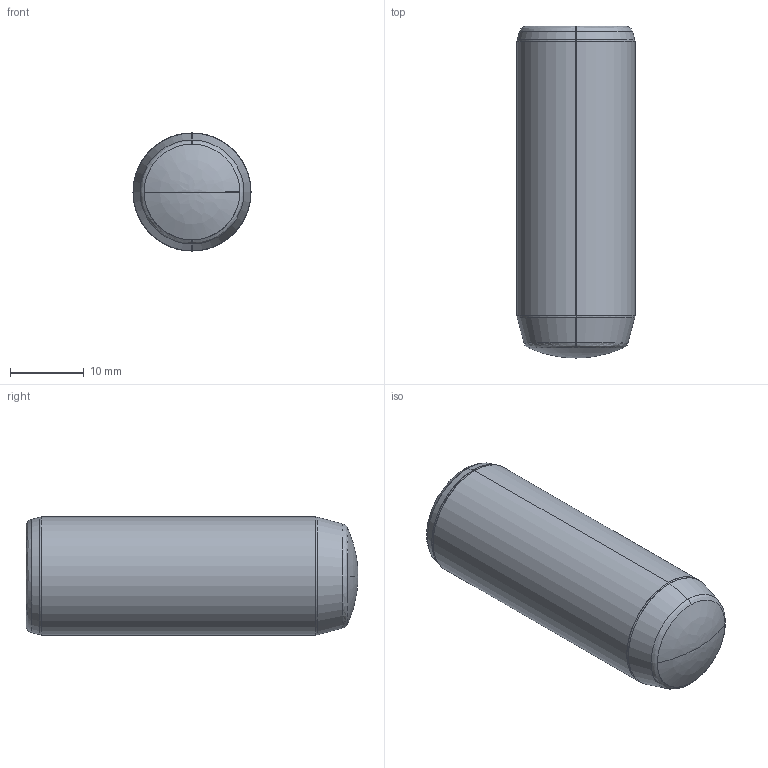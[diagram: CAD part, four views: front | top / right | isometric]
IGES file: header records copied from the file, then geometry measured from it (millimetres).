
Start section: SolidWorks IGES file using analytic representation for surfaces
Global section: file name: D:\Cleonir_arquivos\MT_15_07\Pinos Guia DIN 7979 ISO 8735 com rosca\PG716045.igs; native system: SolidWorks 2013; preprocessor: SolidWorks 2013; author: Cleonir; date: 130730.171933; units: millimetre
Bounding box: 16 x 45 x 16 mm (x, y, z)
Surface area: 2969.4 mm2 (no closed solid volume)
Topology: 0 solids, 0 shells, 291 faces, 2097 edges, 2094 vertices
Faces by surface type: bspline 269, revolution 22
